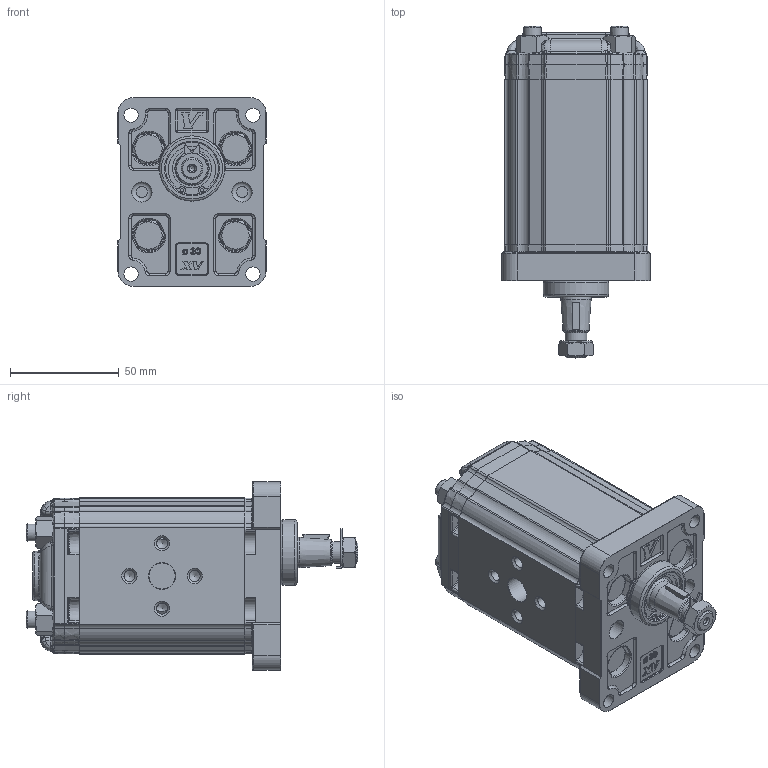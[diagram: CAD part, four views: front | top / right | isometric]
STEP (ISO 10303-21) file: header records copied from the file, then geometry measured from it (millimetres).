
FILE_DESCRIPTION(/* description */ ('Unknown'),/* implementation_level */ '2;1');
FILE_NAME(/* name */ 'X1P3611GIIA',/* time_stamp */ '2026-05-26T18:21:38+02:00',/* author */ ('Unknown'),/* organization */ ('Unknown'),/* preprocessor_version */ 'ST-DEVELOPER v16.7',/* originating_system */ 'Solid Edge',/* authorisation */ 'Unknown');
FILE_SCHEMA (('AUTOMOTIVE_DESIGN {1 0 10303 214 3 1 1}'));
Products named in the file (5): X1P3611GIIA; X1P11; 1G; X1IIH76; XP113-A
Assembly tree (4 placements, depth 2):
  X1P3611GIIA
    X1P11
    1G
    X1IIH76
    XP113-A
Bounding box: 68 x 152.49 x 86.7 mm (x, y, z)
Volume: 461481 mm3; surface area: 85427.5 mm2
Topology: 4 solids, 5 shells, 2412 faces, 5824 edges, 3489 vertices
Faces by surface type: cylinder 767, plane 590, bspline 514, torus 268, cone 222, sphere 51
Full cylindrical faces by diameter (mm): 1.678 x2, 2.5 x1, 3 x2, 5 x8, 6.5 x4, 8 x12, 8.5 x6, 9 x2, 9.3 x2, 10 x2, 10.25 x1, 10.5 x2, 12 x6, 13.955 x1, 14 x2, 14.923 x1, 17.115 x1, 17.833 x1, 20 x1, 22 x1, 24 x2, 24.2 x1, 25.5 x1, 30 x1
Entity records: 116656 total; most frequent: CARTESIAN_POINT 46680, ORIENTED_EDGE 11090, DIRECTION 10751, EDGE_CURVE 5545, AXIS2_PLACEMENT_3D 4371, VERTEX_POINT 3400, FACE_BOUND 2747, EDGE_LOOP 2737
